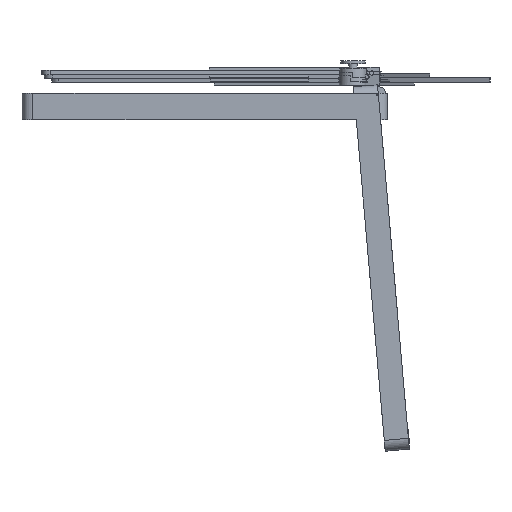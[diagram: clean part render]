
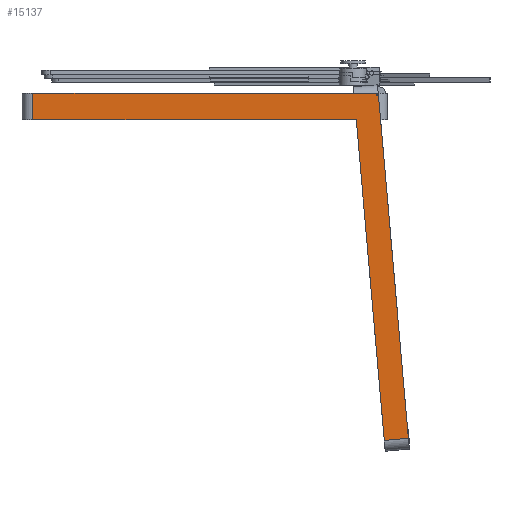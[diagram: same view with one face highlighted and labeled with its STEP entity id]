
A CAD part, left-side view. The second image highlights one B-rep face of the part: STEP entity #15137.
In plain terms, the highlighted planar face has unit normal (-1, 0, 0).
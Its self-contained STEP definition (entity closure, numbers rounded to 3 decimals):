
#8421 = PLANE('',#8422);
#8422 = AXIS2_PLACEMENT_3D('',#8423,#8424,#8425);
#8423 = CARTESIAN_POINT('',(-46.,-30.19,2.2));
#8424 = DIRECTION('',(0.,0.,1.));
#8425 = DIRECTION('',(1.,0.,0.));
#12429 = EDGE_CURVE('',#12430,#12432,#12434,.T.);
#12430 = VERTEX_POINT('',#12431);
#12431 = CARTESIAN_POINT('',(-46.,-28.39,2.2));
#12432 = VERTEX_POINT('',#12433);
#12433 = CARTESIAN_POINT('',(-46.,28.39,2.2));
#12434 = SURFACE_CURVE('',#12435,(#12439,#12446),.PCURVE_S1.);
#12435 = LINE('',#12436,#12437);
#12436 = CARTESIAN_POINT('',(-46.,-30.19,2.2));
#12437 = VECTOR('',#12438,1.);
#12438 = DIRECTION('',(0.,1.,0.));
#12439 = PCURVE('',#8421,#12440);
#12440 = DEFINITIONAL_REPRESENTATION('',(#12441),#12445);
#12441 = LINE('',#12442,#12443);
#12442 = CARTESIAN_POINT('',(0.,0.));
#12443 = VECTOR('',#12444,1.);
#12444 = DIRECTION('',(0.,1.));
#12445 = ( GEOMETRIC_REPRESENTATION_CONTEXT(2) 
PARAMETRIC_REPRESENTATION_CONTEXT() REPRESENTATION_CONTEXT('2D SPACE',''
  ) );
#12446 = PCURVE('',#12447,#12452);
#12447 = PLANE('',#12448);
#12448 = AXIS2_PLACEMENT_3D('',#12449,#12450,#12451);
#12449 = CARTESIAN_POINT('',(-46.,-30.19,-2.2));
#12450 = DIRECTION('',(1.,0.,0.));
#12451 = DIRECTION('',(0.,0.,1.));
#12452 = DEFINITIONAL_REPRESENTATION('',(#12453),#12457);
#12453 = LINE('',#12454,#12455);
#12454 = CARTESIAN_POINT('',(4.4,0.));
#12455 = VECTOR('',#12456,1.);
#12456 = DIRECTION('',(0.,-1.));
#12457 = ( GEOMETRIC_REPRESENTATION_CONTEXT(2) 
PARAMETRIC_REPRESENTATION_CONTEXT() REPRESENTATION_CONTEXT('2D SPACE',''
  ) );
#12476 = CYLINDRICAL_SURFACE('',#12477,1.8);
#12477 = AXIS2_PLACEMENT_3D('',#12478,#12479,#12480);
#12478 = CARTESIAN_POINT('',(-44.2,-28.39,-2.2));
#12479 = DIRECTION('',(0.,0.,1.));
#12480 = DIRECTION('',(-1.,-0.,0.));
#12653 = CYLINDRICAL_SURFACE('',#12654,1.8);
#12654 = AXIS2_PLACEMENT_3D('',#12655,#12656,#12657);
#12655 = CARTESIAN_POINT('',(-44.2,28.39,-2.2));
#12656 = DIRECTION('',(0.,0.,1.));
#12657 = DIRECTION('',(-1.,-0.,0.));
#15137 = ADVANCED_FACE('',(#15138),#12447,.F.);
#15138 = FACE_BOUND('',#15139,.F.);
#15139 = EDGE_LOOP('',(#15140,#15141,#15164,#15192,#15220,#15248,#15276,
    #15304));
#15140 = ORIENTED_EDGE('',*,*,#12429,.F.);
#15141 = ORIENTED_EDGE('',*,*,#15142,.F.);
#15142 = EDGE_CURVE('',#15143,#12430,#15145,.T.);
#15143 = VERTEX_POINT('',#15144);
#15144 = CARTESIAN_POINT('',(-46.,-28.39,1.763));
#15145 = SURFACE_CURVE('',#15146,(#15150,#15157),.PCURVE_S1.);
#15146 = LINE('',#15147,#15148);
#15147 = CARTESIAN_POINT('',(-46.,-28.39,-2.2));
#15148 = VECTOR('',#15149,1.);
#15149 = DIRECTION('',(0.,0.,1.));
#15150 = PCURVE('',#12447,#15151);
#15151 = DEFINITIONAL_REPRESENTATION('',(#15152),#15156);
#15152 = LINE('',#15153,#15154);
#15153 = CARTESIAN_POINT('',(0.,-1.8));
#15154 = VECTOR('',#15155,1.);
#15155 = DIRECTION('',(1.,0.));
#15156 = ( GEOMETRIC_REPRESENTATION_CONTEXT(2) 
PARAMETRIC_REPRESENTATION_CONTEXT() REPRESENTATION_CONTEXT('2D SPACE',''
  ) );
#15157 = PCURVE('',#12476,#15158);
#15158 = DEFINITIONAL_REPRESENTATION('',(#15159),#15163);
#15159 = LINE('',#15160,#15161);
#15160 = CARTESIAN_POINT('',(0.,0.));
#15161 = VECTOR('',#15162,1.);
#15162 = DIRECTION('',(0.,1.));
#15163 = ( GEOMETRIC_REPRESENTATION_CONTEXT(2) 
PARAMETRIC_REPRESENTATION_CONTEXT() REPRESENTATION_CONTEXT('2D SPACE',''
  ) );
#15164 = ORIENTED_EDGE('',*,*,#15165,.F.);
#15165 = EDGE_CURVE('',#15166,#15143,#15168,.T.);
#15166 = VERTEX_POINT('',#15167);
#15167 = CARTESIAN_POINT('',(-46.,-28.675,1.788));
#15168 = SURFACE_CURVE('',#15169,(#15173,#15180),.PCURVE_S1.);
#15169 = LINE('',#15170,#15171);
#15170 = CARTESIAN_POINT('',(-46.,-28.675,1.788));
#15171 = VECTOR('',#15172,1.);
#15172 = DIRECTION('',(0.,0.996,-0.087));
#15173 = PCURVE('',#12447,#15174);
#15174 = DEFINITIONAL_REPRESENTATION('',(#15175),#15179);
#15175 = LINE('',#15176,#15177);
#15176 = CARTESIAN_POINT('',(3.988,-1.515));
#15177 = VECTOR('',#15178,1.);
#15178 = DIRECTION('',(-0.087,-0.996));
#15179 = ( GEOMETRIC_REPRESENTATION_CONTEXT(2) 
PARAMETRIC_REPRESENTATION_CONTEXT() REPRESENTATION_CONTEXT('2D SPACE',''
  ) );
#15180 = PCURVE('',#15181,#15186);
#15181 = CYLINDRICAL_SURFACE('',#15182,1.8);
#15182 = AXIS2_PLACEMENT_3D('',#15183,#15184,#15185);
#15183 = CARTESIAN_POINT('',(-44.2,-28.675,1.788));
#15184 = DIRECTION('',(0.,0.996,-0.087));
#15185 = DIRECTION('',(-1.,0.,0.));
#15186 = DEFINITIONAL_REPRESENTATION('',(#15187),#15191);
#15187 = LINE('',#15188,#15189);
#15188 = CARTESIAN_POINT('',(0.,0.));
#15189 = VECTOR('',#15190,1.);
#15190 = DIRECTION('',(0.,1.));
#15191 = ( GEOMETRIC_REPRESENTATION_CONTEXT(2) 
PARAMETRIC_REPRESENTATION_CONTEXT() REPRESENTATION_CONTEXT('2D SPACE',''
  ) );
#15192 = ORIENTED_EDGE('',*,*,#15193,.T.);
#15193 = EDGE_CURVE('',#15166,#15194,#15196,.T.);
#15194 = VERTEX_POINT('',#15195);
#15195 = CARTESIAN_POINT('',(-46.,-33.624,-54.775));
#15196 = SURFACE_CURVE('',#15197,(#15201,#15208),.PCURVE_S1.);
#15197 = LINE('',#15198,#15199);
#15198 = CARTESIAN_POINT('',(-46.,-28.519,3.582));
#15199 = VECTOR('',#15200,1.);
#15200 = DIRECTION('',(0.,-0.087,-0.996));
#15201 = PCURVE('',#12447,#15202);
#15202 = DEFINITIONAL_REPRESENTATION('',(#15203),#15207);
#15203 = LINE('',#15204,#15205);
#15204 = CARTESIAN_POINT('',(5.782,-1.671));
#15205 = VECTOR('',#15206,1.);
#15206 = DIRECTION('',(-0.996,0.087));
#15207 = ( GEOMETRIC_REPRESENTATION_CONTEXT(2) 
PARAMETRIC_REPRESENTATION_CONTEXT() REPRESENTATION_CONTEXT('2D SPACE',''
  ) );
#15208 = PCURVE('',#15209,#15214);
#15209 = PLANE('',#15210);
#15210 = AXIS2_PLACEMENT_3D('',#15211,#15212,#15213);
#15211 = CARTESIAN_POINT('',(-46.,-28.519,3.582));
#15212 = DIRECTION('',(0.,0.996,-0.087));
#15213 = DIRECTION('',(1.,0.,0.));
#15214 = DEFINITIONAL_REPRESENTATION('',(#15215),#15219);
#15215 = LINE('',#15216,#15217);
#15216 = CARTESIAN_POINT('',(0.,0.));
#15217 = VECTOR('',#15218,1.);
#15218 = DIRECTION('',(0.,1.));
#15219 = ( GEOMETRIC_REPRESENTATION_CONTEXT(2) 
PARAMETRIC_REPRESENTATION_CONTEXT() REPRESENTATION_CONTEXT('2D SPACE',''
  ) );
#15220 = ORIENTED_EDGE('',*,*,#15221,.T.);
#15221 = EDGE_CURVE('',#15194,#15222,#15224,.T.);
#15222 = VERTEX_POINT('',#15223);
#15223 = CARTESIAN_POINT('',(-46.,-29.639,-55.124));
#15224 = SURFACE_CURVE('',#15225,(#15229,#15236),.PCURVE_S1.);
#15225 = LINE('',#15226,#15227);
#15226 = CARTESIAN_POINT('',(-46.,-33.624,-54.775));
#15227 = VECTOR('',#15228,1.);
#15228 = DIRECTION('',(0.,0.996,-0.087));
#15229 = PCURVE('',#12447,#15230);
#15230 = DEFINITIONAL_REPRESENTATION('',(#15231),#15235);
#15231 = LINE('',#15232,#15233);
#15232 = CARTESIAN_POINT('',(-52.575,3.434));
#15233 = VECTOR('',#15234,1.);
#15234 = DIRECTION('',(-0.087,-0.996));
#15235 = ( GEOMETRIC_REPRESENTATION_CONTEXT(2) 
PARAMETRIC_REPRESENTATION_CONTEXT() REPRESENTATION_CONTEXT('2D SPACE',''
  ) );
#15236 = PCURVE('',#15237,#15242);
#15237 = CYLINDRICAL_SURFACE('',#15238,1.8);
#15238 = AXIS2_PLACEMENT_3D('',#15239,#15240,#15241);
#15239 = CARTESIAN_POINT('',(-44.2,-33.624,-54.775));
#15240 = DIRECTION('',(0.,0.996,-0.087));
#15241 = DIRECTION('',(-1.,0.,0.));
#15242 = DEFINITIONAL_REPRESENTATION('',(#15243),#15247);
#15243 = LINE('',#15244,#15245);
#15244 = CARTESIAN_POINT('',(-0.,0.));
#15245 = VECTOR('',#15246,1.);
#15246 = DIRECTION('',(-0.,1.));
#15247 = ( GEOMETRIC_REPRESENTATION_CONTEXT(2) 
PARAMETRIC_REPRESENTATION_CONTEXT() REPRESENTATION_CONTEXT('2D SPACE',''
  ) );
#15248 = ORIENTED_EDGE('',*,*,#15249,.F.);
#15249 = EDGE_CURVE('',#15250,#15222,#15252,.T.);
#15250 = VERTEX_POINT('',#15251);
#15251 = CARTESIAN_POINT('',(-46.,-25.009,-2.2));
#15252 = SURFACE_CURVE('',#15253,(#15257,#15264),.PCURVE_S1.);
#15253 = LINE('',#15254,#15255);
#15254 = CARTESIAN_POINT('',(-46.,-24.534,3.233));
#15255 = VECTOR('',#15256,1.);
#15256 = DIRECTION('',(0.,-0.087,-0.996));
#15257 = PCURVE('',#12447,#15258);
#15258 = DEFINITIONAL_REPRESENTATION('',(#15259),#15263);
#15259 = LINE('',#15260,#15261);
#15260 = CARTESIAN_POINT('',(5.433,-5.656));
#15261 = VECTOR('',#15262,1.);
#15262 = DIRECTION('',(-0.996,0.087));
#15263 = ( GEOMETRIC_REPRESENTATION_CONTEXT(2) 
PARAMETRIC_REPRESENTATION_CONTEXT() REPRESENTATION_CONTEXT('2D SPACE',''
  ) );
#15264 = PCURVE('',#15265,#15270);
#15265 = PLANE('',#15266);
#15266 = AXIS2_PLACEMENT_3D('',#15267,#15268,#15269);
#15267 = CARTESIAN_POINT('',(-46.,-24.534,3.233));
#15268 = DIRECTION('',(0.,0.996,-0.087));
#15269 = DIRECTION('',(1.,0.,0.));
#15270 = DEFINITIONAL_REPRESENTATION('',(#15271),#15275);
#15271 = LINE('',#15272,#15273);
#15272 = CARTESIAN_POINT('',(0.,0.));
#15273 = VECTOR('',#15274,1.);
#15274 = DIRECTION('',(0.,1.));
#15275 = ( GEOMETRIC_REPRESENTATION_CONTEXT(2) 
PARAMETRIC_REPRESENTATION_CONTEXT() REPRESENTATION_CONTEXT('2D SPACE',''
  ) );
#15276 = ORIENTED_EDGE('',*,*,#15277,.T.);
#15277 = EDGE_CURVE('',#15250,#15278,#15280,.T.);
#15278 = VERTEX_POINT('',#15279);
#15279 = CARTESIAN_POINT('',(-46.,28.39,-2.2));
#15280 = SURFACE_CURVE('',#15281,(#15285,#15292),.PCURVE_S1.);
#15281 = LINE('',#15282,#15283);
#15282 = CARTESIAN_POINT('',(-46.,-30.19,-2.2));
#15283 = VECTOR('',#15284,1.);
#15284 = DIRECTION('',(0.,1.,0.));
#15285 = PCURVE('',#12447,#15286);
#15286 = DEFINITIONAL_REPRESENTATION('',(#15287),#15291);
#15287 = LINE('',#15288,#15289);
#15288 = CARTESIAN_POINT('',(0.,0.));
#15289 = VECTOR('',#15290,1.);
#15290 = DIRECTION('',(0.,-1.));
#15291 = ( GEOMETRIC_REPRESENTATION_CONTEXT(2) 
PARAMETRIC_REPRESENTATION_CONTEXT() REPRESENTATION_CONTEXT('2D SPACE',''
  ) );
#15292 = PCURVE('',#15293,#15298);
#15293 = PLANE('',#15294);
#15294 = AXIS2_PLACEMENT_3D('',#15295,#15296,#15297);
#15295 = CARTESIAN_POINT('',(-46.,-30.19,-2.2));
#15296 = DIRECTION('',(0.,0.,1.));
#15297 = DIRECTION('',(1.,0.,0.));
#15298 = DEFINITIONAL_REPRESENTATION('',(#15299),#15303);
#15299 = LINE('',#15300,#15301);
#15300 = CARTESIAN_POINT('',(0.,0.));
#15301 = VECTOR('',#15302,1.);
#15302 = DIRECTION('',(0.,1.));
#15303 = ( GEOMETRIC_REPRESENTATION_CONTEXT(2) 
PARAMETRIC_REPRESENTATION_CONTEXT() REPRESENTATION_CONTEXT('2D SPACE',''
  ) );
#15304 = ORIENTED_EDGE('',*,*,#15305,.T.);
#15305 = EDGE_CURVE('',#15278,#12432,#15306,.T.);
#15306 = SURFACE_CURVE('',#15307,(#15311,#15318),.PCURVE_S1.);
#15307 = LINE('',#15308,#15309);
#15308 = CARTESIAN_POINT('',(-46.,28.39,-2.2));
#15309 = VECTOR('',#15310,1.);
#15310 = DIRECTION('',(0.,0.,1.));
#15311 = PCURVE('',#12447,#15312);
#15312 = DEFINITIONAL_REPRESENTATION('',(#15313),#15317);
#15313 = LINE('',#15314,#15315);
#15314 = CARTESIAN_POINT('',(0.,-58.58));
#15315 = VECTOR('',#15316,1.);
#15316 = DIRECTION('',(1.,0.));
#15317 = ( GEOMETRIC_REPRESENTATION_CONTEXT(2) 
PARAMETRIC_REPRESENTATION_CONTEXT() REPRESENTATION_CONTEXT('2D SPACE',''
  ) );
#15318 = PCURVE('',#12653,#15319);
#15319 = DEFINITIONAL_REPRESENTATION('',(#15320),#15324);
#15320 = LINE('',#15321,#15322);
#15321 = CARTESIAN_POINT('',(-0.,0.));
#15322 = VECTOR('',#15323,1.);
#15323 = DIRECTION('',(-0.,1.));
#15324 = ( GEOMETRIC_REPRESENTATION_CONTEXT(2) 
PARAMETRIC_REPRESENTATION_CONTEXT() REPRESENTATION_CONTEXT('2D SPACE',''
  ) );
